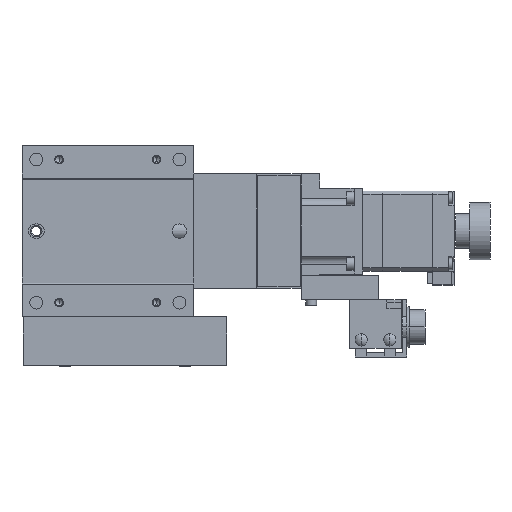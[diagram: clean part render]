
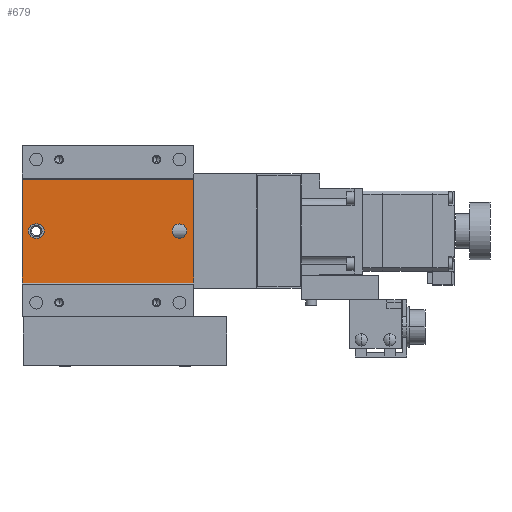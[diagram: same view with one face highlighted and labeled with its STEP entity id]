
A CAD part, front view. The second image highlights one B-rep face of the part: STEP entity #679.
In plain terms, the highlighted planar face has unit normal (0, -1, 0).
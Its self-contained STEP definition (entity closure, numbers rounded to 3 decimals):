
#679=ADVANCED_FACE('',(#1836,#1837,#1838),#1839,.F.);
#1836=FACE_BOUND('',#3418,.T.);
#1837=FACE_OUTER_BOUND('',#3419,.T.);
#1838=FACE_BOUND('',#3420,.T.);
#1839=PLANE('',#3421);
#3418=EDGE_LOOP('',(#7113,#7114,#7115,#7116));
#3419=EDGE_LOOP('',(#7117,#7118,#7119,#7120));
#3420=EDGE_LOOP('',(#7121,#7122,#7123));
#3421=AXIS2_PLACEMENT_3D('',#7124,#7125,#7126);
#7113=ORIENTED_EDGE('',*,*,#11168,.F.);
#7114=ORIENTED_EDGE('',*,*,#11169,.F.);
#7115=ORIENTED_EDGE('',*,*,#11170,.F.);
#7116=ORIENTED_EDGE('',*,*,#11171,.F.);
#7117=ORIENTED_EDGE('',*,*,#11153,.T.);
#7118=ORIENTED_EDGE('',*,*,#11172,.F.);
#7119=ORIENTED_EDGE('',*,*,#11173,.F.);
#7120=ORIENTED_EDGE('',*,*,#11174,.T.);
#7121=ORIENTED_EDGE('',*,*,#11058,.F.);
#7122=ORIENTED_EDGE('',*,*,#11057,.F.);
#7123=ORIENTED_EDGE('',*,*,#11175,.F.);
#7124=CARTESIAN_POINT('',(30.0,0.35,18.15));
#7125=DIRECTION('',(-0.0,1.0,0.));
#7126=DIRECTION('',(1.0,0.0,0.0));
#11057=EDGE_CURVE('',#13489,#13491,#13492,.F.);
#11058=EDGE_CURVE('',#13491,#13485,#13493,.F.);
#11153=EDGE_CURVE('',#13670,#13668,#13671,.T.);
#11168=EDGE_CURVE('',#13698,#13699,#13700,.F.);
#11169=EDGE_CURVE('',#13701,#13698,#13702,.T.);
#11170=EDGE_CURVE('',#13703,#13701,#13704,.F.);
#11171=EDGE_CURVE('',#13699,#13703,#13705,.T.);
#11172=EDGE_CURVE('',#13706,#13668,#13707,.T.);
#11173=EDGE_CURVE('',#13708,#13706,#13709,.T.);
#11174=EDGE_CURVE('',#13708,#13670,#13710,.T.);
#11175=EDGE_CURVE('',#13485,#13489,#13711,.F.);
#13485=VERTEX_POINT('',#17166);
#13489=VERTEX_POINT('',#17171);
#13491=VERTEX_POINT('',#17174);
#13492=CIRCLE('',#17175,2.5);
#13493=CIRCLE('',#17176,2.5);
#13668=VERTEX_POINT('',#17406);
#13670=VERTEX_POINT('',#17409);
#13671=LINE('',#17410,#17411);
#13698=VERTEX_POINT('',#17452);
#13699=VERTEX_POINT('',#17453);
#13700=CIRCLE('',#17454,2.5);
#13701=VERTEX_POINT('',#17455);
#13702=LINE('',#17456,#17457);
#13703=VERTEX_POINT('',#17458);
#13704=CIRCLE('',#17459,2.5);
#13705=LINE('',#17460,#17461);
#13706=VERTEX_POINT('',#17462);
#13707=LINE('',#17463,#17464);
#13708=VERTEX_POINT('',#17465);
#13709=LINE('',#17466,#17467);
#13710=LINE('',#17468,#17469);
#13711=CIRCLE('',#17470,2.5);
#17166=CARTESIAN_POINT('',(22.5,0.35,0.));
#17171=CARTESIAN_POINT('',(27.5,0.35,0.));
#17174=CARTESIAN_POINT('',(25.0,0.35,2.5));
#17175=AXIS2_PLACEMENT_3D('',#21155,#21156,#21157);
#17176=AXIS2_PLACEMENT_3D('',#21158,#21159,#21160);
#17406=CARTESIAN_POINT('',(-30.0,0.35,-18.15));
#17409=CARTESIAN_POINT('',(-30.0,0.35,18.15));
#17410=CARTESIAN_POINT('',(-30.0,0.35,18.15));
#17411=VECTOR('',#21331,1000.0);
#17452=CARTESIAN_POINT('',(-25.25,0.35,2.5));
#17453=CARTESIAN_POINT('',(-25.25,0.35,-2.5));
#17454=AXIS2_PLACEMENT_3D('',#21346,#21347,#21348);
#17455=CARTESIAN_POINT('',(-24.75,0.35,2.5));
#17456=CARTESIAN_POINT('',(30.0,0.35,2.5));
#17457=VECTOR('',#21349,1000.0);
#17458=CARTESIAN_POINT('',(-24.75,0.35,-2.5));
#17459=AXIS2_PLACEMENT_3D('',#21350,#21351,#21352);
#17460=CARTESIAN_POINT('',(30.0,0.35,-2.5));
#17461=VECTOR('',#21353,1000.0);
#17462=CARTESIAN_POINT('',(30.0,0.35,-18.15));
#17463=CARTESIAN_POINT('',(30.0,0.35,-18.15));
#17464=VECTOR('',#21354,1000.0);
#17465=CARTESIAN_POINT('',(30.0,0.35,18.15));
#17466=CARTESIAN_POINT('',(30.0,0.35,18.15));
#17467=VECTOR('',#21355,1000.0);
#17468=CARTESIAN_POINT('',(30.0,0.35,18.15));
#17469=VECTOR('',#21356,1000.0);
#17470=AXIS2_PLACEMENT_3D('',#21357,#21358,#21359);
#21155=CARTESIAN_POINT('',(25.0,0.35,0.0));
#21156=DIRECTION('',(0.0,1.0,0.));
#21157=DIRECTION('',(0.0,0.,1.0));
#21158=CARTESIAN_POINT('',(25.0,0.35,0.0));
#21159=DIRECTION('',(0.0,1.0,0.));
#21160=DIRECTION('',(0.0,0.,1.0));
#21331=DIRECTION('',(0.0,0.,-1.0));
#21346=CARTESIAN_POINT('',(-25.25,0.35,0.));
#21347=DIRECTION('',(0.0,1.0,0.));
#21348=DIRECTION('',(0.0,0.,1.0));
#21349=DIRECTION('',(-1.0,0.0,0.0));
#21350=CARTESIAN_POINT('',(-24.75,0.35,0.));
#21351=DIRECTION('',(0.0,1.0,0.));
#21352=DIRECTION('',(0.0,0.,1.0));
#21353=DIRECTION('',(1.0,0.0,0.0));
#21354=DIRECTION('',(-1.0,0.0,0.0));
#21355=DIRECTION('',(0.0,0.,-1.0));
#21356=DIRECTION('',(-1.0,0.0,0.0));
#21357=CARTESIAN_POINT('',(25.0,0.35,0.0));
#21358=DIRECTION('',(0.0,1.0,0.));
#21359=DIRECTION('',(0.0,0.,1.0));
